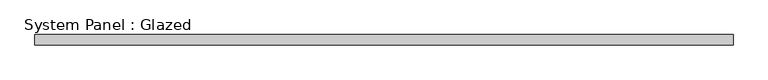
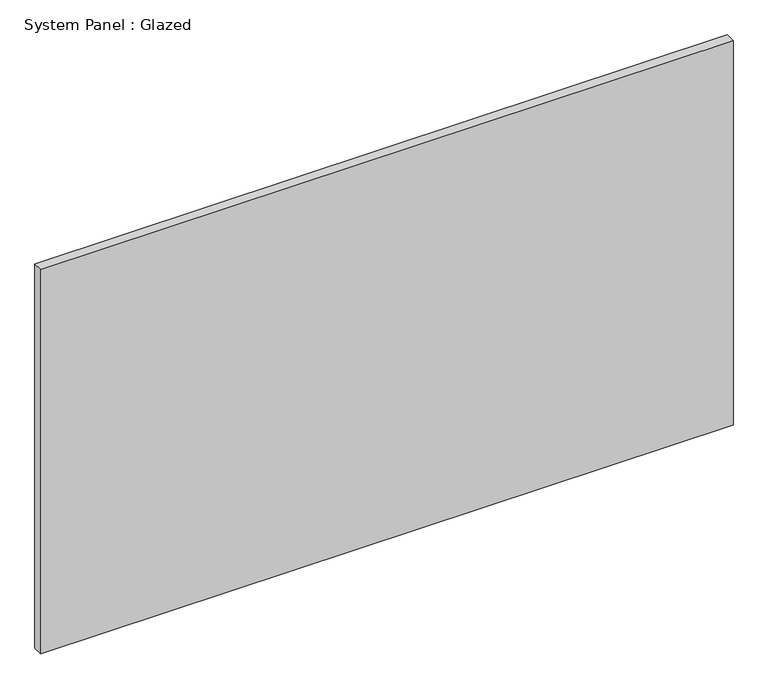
"""IFC4 building model written with IfcOpenShell, lengths in millimetres: plate geometry, System Panel : Glazed."""

from ifc_helpers import new_model, si_unit, origin, origin_with_axes, place, context, project, spatial, polyline, outline, extrude, source, transform, mapped, element, save


def system_panel_glazed_525ed004(model_context):
    return source(origin(), model_context, "Body", "SweptSolid", [
        extrude(outline(polyline([(851.8620557, 24.5), (-851.8620557, 24.5), (-851.8620557, 49.5), (851.8620557, 49.5), (851.8620557, 24.5)])), origin_with_axes(), (0.0, 0.0, 1.0), 1000.0),
    ])


if __name__ == "__main__":
    model = new_model("IFC4")
    model_context = context("Model", 3, world=origin())
    ifc_project = project(units=[si_unit("LENGTHUNIT", "METRE", prefix="MILLI")], contexts=[model_context])
    site = spatial("IfcSite", under=ifc_project)
    building = spatial("IfcBuilding", under=site)
    placement = place(None, origin())
    system_panel_glazed_shape = system_panel_glazed_525ed004(model_context)
    element("IfcPlate", 1, ObjectType="System Panel : Glazed", at=placement, inside=building, context=model_context, shape_type="MappedRepresentation", body=[
        mapped(system_panel_glazed_shape, transform((0.0, 0.0, 0.0), x_axis=(1.0, 0.0, 0.0), y_axis=(0.0, 1.0, 0.0), z_axis=(0.0, 0.0, 1.0))),
    ])
    save(model, "model.ifc")
